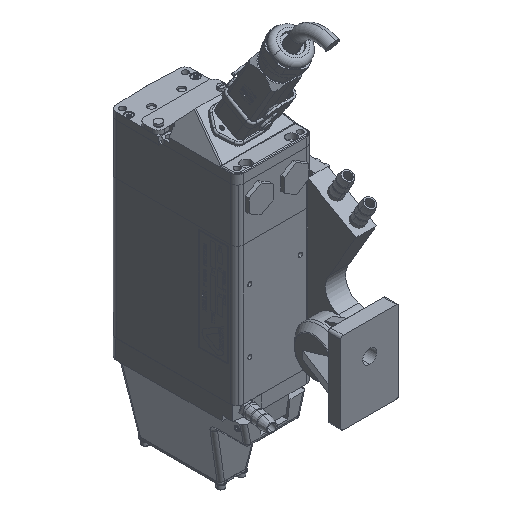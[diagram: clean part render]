
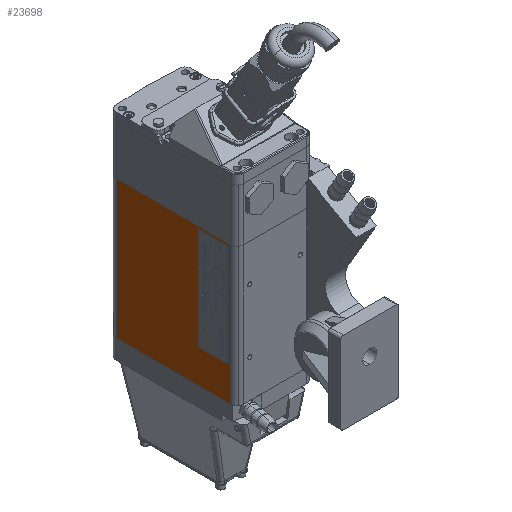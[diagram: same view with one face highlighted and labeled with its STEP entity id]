
A CAD part, isometric view. The second image highlights one B-rep face of the part: STEP entity #23698.
In plain terms, the highlighted planar face has unit normal (-1, 0, 0).
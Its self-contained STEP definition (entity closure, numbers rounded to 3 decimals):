
#1915 = CARTESIAN_POINT ( 'NONE',  ( 30.63, -48.55, 408.863 ) ) ;
#2145 = PLANE ( 'NONE',  #11926 ) ;
#2480 = LINE ( 'NONE', #62725, #30369 ) ;
#2522 = EDGE_CURVE ( 'NONE', #22595, #50271, #36843, .T. ) ;
#3178 = DIRECTION ( 'NONE',  ( 0., 0., -1. ) ) ;
#4476 = DIRECTION ( 'NONE',  ( 0., -1., 0. ) ) ;
#5169 = EDGE_LOOP ( 'NONE', ( #14744, #45192, #58918, #16487 ) ) ;
#7756 = VECTOR ( 'NONE', #61800, 1000. ) ;
#7991 = DIRECTION ( 'NONE',  ( 0., 1., 0. ) ) ;
#9039 = LINE ( 'NONE', #45913, #22095 ) ;
#10574 = CARTESIAN_POINT ( 'NONE',  ( 30.63, 39.986, 411.363 ) ) ;
#11926 = AXIS2_PLACEMENT_3D ( 'NONE', #24466, #63586, #30156 ) ;
#12054 = VERTEX_POINT ( 'NONE', #16461 ) ;
#12209 = LINE ( 'NONE', #1915, #69796 ) ;
#12768 = VERTEX_POINT ( 'NONE', #36342 ) ;
#12801 = CARTESIAN_POINT ( 'NONE',  ( 30.63, -25.55, 408.863 ) ) ;
#14744 = ORIENTED_EDGE ( 'NONE', *, *, #2522, .F. ) ;
#14921 = VERTEX_POINT ( 'NONE', #59190 ) ;
#14978 = EDGE_CURVE ( 'NONE', #14921, #57419, #39178, .T. ) ;
#16461 = CARTESIAN_POINT ( 'NONE',  ( 30.63, -48.55, 328.363 ) ) ;
#16487 = ORIENTED_EDGE ( 'NONE', *, *, #56199, .F. ) ;
#17228 = EDGE_CURVE ( 'NONE', #12768, #57419, #9039, .T. ) ;
#17552 = VERTEX_POINT ( 'NONE', #54644 ) ;
#17816 = LINE ( 'NONE', #37832, #47437 ) ;
#18110 = DIRECTION ( 'NONE',  ( 0., 0., 1. ) ) ;
#18675 = DIRECTION ( 'NONE',  ( 0., 0., 1. ) ) ;
#18690 = EDGE_CURVE ( 'NONE', #57870, #12768, #2480, .T. ) ;
#22095 = VECTOR ( 'NONE', #18110, 1000. ) ;
#22595 = VERTEX_POINT ( 'NONE', #12801 ) ;
#23698 = ADVANCED_FACE ( 'NONE', ( #51317, #54826 ), #2145, .F. ) ;
#24466 = CARTESIAN_POINT ( 'NONE',  ( 30.63, 45.95, 411.363 ) ) ;
#24483 = ORIENTED_EDGE ( 'NONE', *, *, #18690, .T. ) ;
#25976 = CARTESIAN_POINT ( 'NONE',  ( 30.63, 45.95, 411.363 ) ) ;
#30156 = DIRECTION ( 'NONE',  ( 0., 1., 0. ) ) ;
#30369 = VECTOR ( 'NONE', #68380, 1000. ) ;
#31908 = EDGE_CURVE ( 'NONE', #12054, #17552, #12209, .T. ) ;
#31988 = VECTOR ( 'NONE', #7991, 1000. ) ;
#35540 = CARTESIAN_POINT ( 'NONE',  ( 30.63, -48.55, 408.863 ) ) ;
#36342 = CARTESIAN_POINT ( 'NONE',  ( 30.63, -51.05, 301.863 ) ) ;
#36843 = LINE ( 'NONE', #53617, #64816 ) ;
#37832 = CARTESIAN_POINT ( 'NONE',  ( 30.63, -48.55, 328.363 ) ) ;
#39178 = LINE ( 'NONE', #25976, #52278 ) ;
#45110 = CARTESIAN_POINT ( 'NONE',  ( 30.63, 39.986, 301.863 ) ) ;
#45192 = ORIENTED_EDGE ( 'NONE', *, *, #55245, .F. ) ;
#45913 = CARTESIAN_POINT ( 'NONE',  ( 30.63, -51.05, 411.363 ) ) ;
#47437 = VECTOR ( 'NONE', #4476, 1000. ) ;
#48231 = EDGE_LOOP ( 'NONE', ( #24483, #65981, #59590, #60271 ) ) ;
#50271 = VERTEX_POINT ( 'NONE', #66490 ) ;
#51317 = FACE_BOUND ( 'NONE', #5169, .T. ) ;
#52278 = VECTOR ( 'NONE', #70681, 1000. ) ;
#53617 = CARTESIAN_POINT ( 'NONE',  ( 30.63, -25.55, 408.863 ) ) ;
#54644 = CARTESIAN_POINT ( 'NONE',  ( 30.63, -48.55, 408.863 ) ) ;
#54826 = FACE_OUTER_BOUND ( 'NONE', #48231, .T. ) ;
#55245 = EDGE_CURVE ( 'NONE', #17552, #22595, #61715, .T. ) ;
#56199 = EDGE_CURVE ( 'NONE', #50271, #12054, #17816, .T. ) ;
#57419 = VERTEX_POINT ( 'NONE', #61556 ) ;
#57870 = VERTEX_POINT ( 'NONE', #45110 ) ;
#58918 = ORIENTED_EDGE ( 'NONE', *, *, #31908, .F. ) ;
#59190 = CARTESIAN_POINT ( 'NONE',  ( 30.63, 39.986, 411.363 ) ) ;
#59590 = ORIENTED_EDGE ( 'NONE', *, *, #14978, .F. ) ;
#60271 = ORIENTED_EDGE ( 'NONE', *, *, #70810, .T. ) ;
#61556 = CARTESIAN_POINT ( 'NONE',  ( 30.63, -51.05, 411.363 ) ) ;
#61715 = LINE ( 'NONE', #35540, #31988 ) ;
#61800 = DIRECTION ( 'NONE',  ( 0., 0., -1. ) ) ;
#62725 = CARTESIAN_POINT ( 'NONE',  ( 30.63, 45.95, 301.863 ) ) ;
#63586 = DIRECTION ( 'NONE',  ( 1., 0., 0. ) ) ;
#64816 = VECTOR ( 'NONE', #3178, 1000. ) ;
#65981 = ORIENTED_EDGE ( 'NONE', *, *, #17228, .T. ) ;
#66490 = CARTESIAN_POINT ( 'NONE',  ( 30.63, -25.55, 328.363 ) ) ;
#67154 = LINE ( 'NONE', #10574, #7756 ) ;
#68380 = DIRECTION ( 'NONE',  ( 0., -1., 0. ) ) ;
#69796 = VECTOR ( 'NONE', #18675, 1000. ) ;
#70681 = DIRECTION ( 'NONE',  ( 0., -1., 0. ) ) ;
#70810 = EDGE_CURVE ( 'NONE', #14921, #57870, #67154, .T. ) ;
